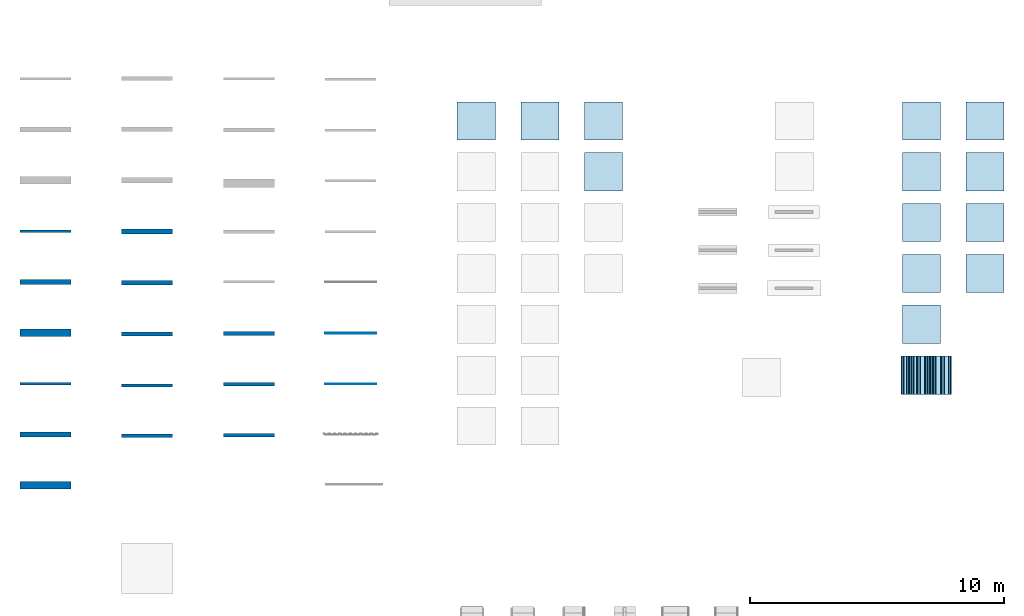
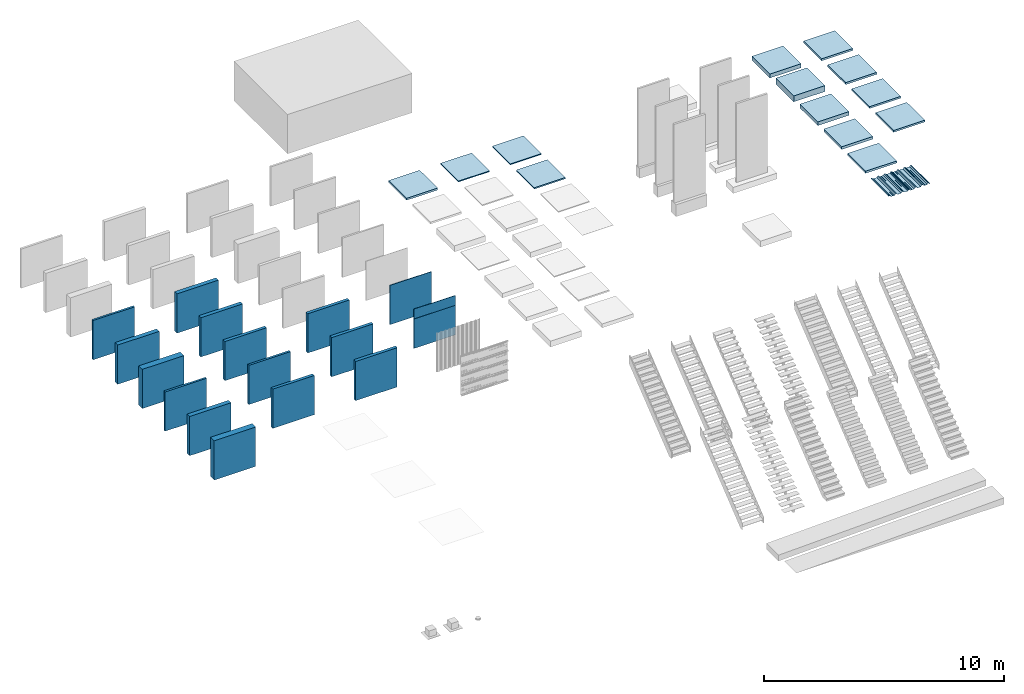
# One storey, part 4 of 14: 17 walls, 13 slabs, 2 plates, 10 elements without a shape of their own.
"""IFC2X3 building model written with IfcOpenShell, lengths in millimetres."""

from ifc_helpers import new_model, entity, si_unit, converted_unit, derived_unit, direction, frame, frame_2d, origin, origin_2d_with_axis, place, context, subcontext, project, spatial, polyline, rectangle, outline, extrude, source, transform, mapped, material, layer, layer_set, layer_usage, type_object, type_shapes, element, aggregate, save


model = new_model("IFC2X3")

# Units and contexts
model_context = context("Model", 3, precision=0.01, world=origin(), true_north=direction((6.12303176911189e-17, 1.0)))
body_context = subcontext(model_context, "Body", "Model", "MODEL_VIEW")
ifc_project = project(units=[si_unit("LENGTHUNIT", "METRE", prefix="MILLI"), si_unit("AREAUNIT", "SQUARE_METRE"), si_unit("VOLUMEUNIT", "CUBIC_METRE"), converted_unit("PLANEANGLEUNIT", "DEGREE", entity("IfcRatioMeasure", 0.0174532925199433), si_unit("PLANEANGLEUNIT", "RADIAN"), dimensions=[0, 0, 0, 0, 0, 0, 0]), si_unit("MASSUNIT", "GRAM", prefix="KILO"), si_unit("TIMEUNIT", "SECOND"), si_unit("FREQUENCYUNIT", "HERTZ"), si_unit("THERMODYNAMICTEMPERATUREUNIT", "KELVIN"), derived_unit("THERMALTRANSMITTANCEUNIT", [(si_unit("MASSUNIT", "GRAM", prefix="KILO"), 1), (si_unit("THERMODYNAMICTEMPERATUREUNIT", "KELVIN"), -1), (si_unit("TIMEUNIT", "SECOND"), -3)]), derived_unit("VOLUMETRICFLOWRATEUNIT", [(si_unit("LENGTHUNIT", "METRE"), 3), (si_unit("TIMEUNIT", "SECOND"), -1)]), si_unit("ELECTRICCURRENTUNIT", "AMPERE"), si_unit("ELECTRICVOLTAGEUNIT", "VOLT"), si_unit("POWERUNIT", "WATT")], contexts=[model_context])

# Site, building, storey
site_placement = place(None, origin())
site = spatial("IfcSite", under=ifc_project, at=site_placement, Name="Surface", CompositionType="ELEMENT")
building_placement = place(site_placement, origin())
building = spatial("IfcBuilding", under=site, at=building_placement, CompositionType="ELEMENT")
storey_placement = place(building_placement, origin())
storey = spatial("IfcBuildingStorey", under=building, at=storey_placement, Name="00_begane grond", CompositionType="ELEMENT", Elevation=0.0)

# Roof, plates
curtain_wall_type = type_object("IfcCurtainWallType", Name="Sloped Glazing:27_CW_SAB58KD_945mm", PredefinedType="NOTDEFINED")
roof_1_placement = place(storey_placement, origin())
roof_1 = element("IfcRoof", 1, at=roof_1_placement, inside=storey, type_object=curtain_wall_type, Name="Sloped Glazing:27_CW_SAB58KD_945mm", ObjectType="Sloped Glazing:27_CW_SAB58KD_945mm:1393", ShapeType="NOTDEFINED")
plate_type_1 = type_object("IfcPlateType", Name="SAB58KD_945", PredefinedType="NOTDEFINED")
shared_shape_1 = source(origin(), body_context, "Body", "SweptSolid", [
    extrude(outline(polyline([(-41.6883369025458, -6.31626557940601), (-38.0537855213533, -6.31626557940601), (-6.51645922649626, 14.7086186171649), (-5.11855484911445, 18.063589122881), (44.5780594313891, 51.1946653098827), (119.78533029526, 31.0648525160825), (162.475119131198, 59.5247117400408), (172.819626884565, 136.689043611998), (222.51559042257, 169.819685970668), (226.150141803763, 169.819685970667), (257.68746809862, 190.844570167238), (259.085372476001, 194.199540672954), (308.781608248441, 227.330364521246), (383.988986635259, 207.200623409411), (416.028687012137, 228.560423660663), (397.342743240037, 286.371121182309), (408.300957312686, 293.676597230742), (418.90416186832, 283.514998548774), (420.28798638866, 284.958961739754), (408.526464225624, 296.23063602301), (394.974288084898, 287.195851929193), (413.660231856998, 229.385154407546), (383.632257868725, 209.366505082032), (308.424879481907, 229.496246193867), (257.472122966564, 195.527741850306), (256.074218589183, 192.17277134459), (225.544590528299, 171.819685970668), (221.910039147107, 171.819685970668), (170.95755361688, 137.851362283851), (160.613045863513, 60.6870304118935), (119.428602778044, 33.2307350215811), (44.2213319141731, 53.3605478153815), (-6.73180435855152, 19.3917903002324), (-8.12970873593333, 16.0368197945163), (-38.6593367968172, -4.31626557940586), (-42.2938881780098, -4.31626557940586), (-93.2479062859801, -38.2856109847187), (-103.592414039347, -115.449942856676), (-144.776857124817, -142.906238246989), (-219.984127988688, -122.776425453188), (-270.937264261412, -156.745182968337), (-272.335168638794, -160.100153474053), (-302.864796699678, -180.453238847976), (-306.49934808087, -180.453238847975), (-357.44939838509, -214.419939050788), (-368.151786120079, -294.22655842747), (-407.873068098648, -320.707413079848), (-423.86478432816, -316.569685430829), (-432.461053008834, -311.156883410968), (-433.526726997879, -312.849319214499), (-424.667084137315, -318.427959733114), (-407.507999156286, -322.867734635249), (-366.289758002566, -295.388907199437), (-355.587370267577, -215.582287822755), (-305.893796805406, -182.453238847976), (-302.259245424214, -182.453238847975), (-270.721919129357, -161.428354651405), (-269.324014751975, -158.073384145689), (-219.627400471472, -124.942307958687), (-144.420129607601, -145.072120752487), (-101.730340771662, -116.612261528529), (-91.3858330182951, -39.4479296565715), (-41.6883369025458, -6.31626557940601)])), frame((534.253619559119, 42.597426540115, 0.0), z_axis=(0.0, 0.0, 1.0), x_axis=(0.832050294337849, -0.55470019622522, 0.0)), (0.0, 0.0, 1.0), 1500.0),
])
type_shapes(plate_type_1, [shared_shape_1])
plate_1_placement = place(roof_1_placement, frame((34647.8084880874, -13415.0, 64.0), z_axis=(0.0, 1.0, 0.0), x_axis=(1.0, 0.0, 0.0)))
plate_1 = element("IfcPlate", 2, at=plate_1_placement, type_object=plate_type_1, Name="27_CWP_SAB58KD_945:SAB58KD_945", ObjectType="SAB58KD_945", context=body_context, shape_type="MappedRepresentation", body=[
    mapped(shared_shape_1, transform((0.0, 0.0, 0.0), scale=1.0)),
])
plate_type_2 = type_object("IfcPlateType", Name="SAB58KD_945", PredefinedType="NOTDEFINED")
shared_shape_2 = source(origin(), body_context, "Body", "SweptSolid", [
    extrude(outline(polyline([(-41.688336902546, -6.31626557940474), (-38.0537855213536, -6.31626557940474), (-6.51645922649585, 14.7086186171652), (-5.11855484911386, 18.0635891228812), (44.5780594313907, 51.1946653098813), (119.785330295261, 31.0648525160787), (162.4751191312, 59.5247117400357), (172.819626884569, 136.689043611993), (222.515590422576, 169.819685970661), (226.150141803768, 169.81968597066), (257.687468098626, 190.84457016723), (259.085372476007, 194.199540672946), (308.781608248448, 227.330364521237), (383.988986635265, 207.200623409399), (416.028687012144, 228.56042366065), (397.342743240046, 286.371121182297), (408.300957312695, 293.676597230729), (418.904161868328, 283.514998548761), (420.287986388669, 284.958961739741), (408.526464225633, 296.230636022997), (394.974288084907, 287.19585192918), (413.660231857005, 229.385154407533), (383.632257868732, 209.36650508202), (308.424879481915, 229.496246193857), (257.47212296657, 195.527741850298), (256.074218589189, 192.172771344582), (225.544590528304, 171.81968597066), (221.910039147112, 171.819685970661), (170.957553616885, 137.851362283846), (160.613045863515, 60.6870304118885), (119.428602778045, 33.2307350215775), (44.2213319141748, 53.3605478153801), (-6.73180435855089, 19.3917903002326), (-8.1297087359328, 16.0368197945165), (-38.6593367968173, -4.31626557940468), (-42.2938881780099, -4.31626557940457), (-93.2479062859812, -38.2856109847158), (-103.592414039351, -115.449942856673), (-144.776857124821, -142.906238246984), (-219.984127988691, -122.776425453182), (-270.937264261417, -156.745182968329), (-272.335168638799, -160.100153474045), (-302.864796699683, -180.453238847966), (-306.499348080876, -180.453238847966), (-357.449398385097, -214.419939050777), (-368.151786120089, -294.226558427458), (-407.873068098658, -320.707413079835), (-423.86478432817, -316.569685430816), (-432.461053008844, -311.156883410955), (-433.526726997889, -312.849319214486), (-424.667084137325, -318.427959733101), (-407.507999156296, -322.867734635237), (-366.289758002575, -295.388907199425), (-355.587370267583, -215.582287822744), (-305.893796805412, -182.453238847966), (-302.259245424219, -182.453238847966), (-270.721919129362, -161.428354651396), (-269.32401475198, -158.07338414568), (-219.627400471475, -124.94230795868), (-144.420129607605, -145.072120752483), (-101.730340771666, -116.612261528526), (-91.3858330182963, -39.4479296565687), (-41.688336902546, -6.31626557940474)])), frame((534.253619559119, 42.597426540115, 0.0), z_axis=(0.0, 0.0, 1.0), x_axis=(0.832050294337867, -0.554700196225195, 0.0)), (0.0, 0.0, 1.0), 1500.0),
])
type_shapes(plate_type_2, [shared_shape_2])
plate_2_placement = place(roof_1_placement, frame((35592.8084880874, -13415.0, 64.0), z_axis=(0.0, 1.0, 0.0), x_axis=(1.0, 0.0, 0.0)))
plate_2 = element("IfcPlate", 3, at=plate_2_placement, type_object=plate_type_2, Name="27_CWP_SAB58KD_945:SAB58KD_945", ObjectType="SAB58KD_945", context=body_context, shape_type="MappedRepresentation", body=[
    mapped(shared_shape_2, transform((0.0, 0.0, 0.0), scale=1.0)),
])
aggregate(roof_1, [plate_1, plate_2])

# Slabs
ifc_material_1 = material(Name="Default")
ifc_layer_1 = layer(ifc_material_1, 100.0)
ifc_layer_set_1 = layer_set([ifc_layer_1], Name="Floor:13_FL_generiek_100")
ifc_layer_usage_1 = layer_usage(ifc_layer_set_1, "AXIS3", "POSITIVE", 0.0)
slab_1_placement = place(storey_placement, origin())
element("IfcSlab", 4, at=slab_1_placement, inside=storey, material=ifc_layer_usage_1, Name="Floor:13_FL_generiek_100", ObjectType="Floor:13_FL_generiek_100", PredefinedType="FLOOR", context=body_context, shape_type="SweptSolid", body=[
    extrude(rectangle(XDim=1500.0, YDim=1500.0, at=frame_2d((-1.13686837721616e-13, 0.0), x_axis=(1.0, 0.0))), frame((17943.3473849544, -2665.0, 0.0), z_axis=(0.0, 0.0, -1.0), x_axis=(0.0, 1.0, 0.0)), (0.0, 0.0, 1.0), 100.0),
])
ifc_material_2 = material(Name="28_beton_prefab_C45_55")
ifc_layer_2 = layer(ifc_material_2, 50.0)
ifc_layer_set_2 = layer_set([ifc_layer_2], Name="Floor:23_FL_breedplaat_50")
ifc_layer_usage_2 = layer_usage(ifc_layer_set_2, "AXIS3", "POSITIVE", 0.0)
slab_2_placement = place(storey_placement, origin())
element("IfcSlab", 5, at=slab_2_placement, inside=storey, material=ifc_layer_usage_2, Name="Floor:23_FL_breedplaat_50", ObjectType="Floor:23_FL_breedplaat_50", PredefinedType="FLOOR", context=body_context, shape_type="SweptSolid", body=[
    extrude(rectangle(XDim=1500.0, YDim=1500.00000000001, at=frame_2d((-1.13686837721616e-13, 0.0), x_axis=(1.0, 0.0))), frame((20443.3473849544, -2665.0, 0.0), z_axis=(0.0, 0.0, -1.0), x_axis=(0.0, 1.0, 0.0)), (0.0, 0.0, 1.0), 50.0),
])
ifc_material_3 = material(Name="43_dekvloer_zandcement")
ifc_layer_3 = layer(ifc_material_3, 50.0)
ifc_layer_set_3 = layer_set([ifc_layer_3], Name="Floor:43_FL_cementdekvloer_50")
ifc_layer_usage_3 = layer_usage(ifc_layer_set_3, "AXIS3", "POSITIVE", 0.0)
slab_3_placement = place(storey_placement, origin())
element("IfcSlab", 6, at=slab_3_placement, inside=storey, material=ifc_layer_usage_3, Name="Floor:43_FL_cementdekvloer_50", ObjectType="Floor:43_FL_cementdekvloer_50", PredefinedType="FLOOR", context=body_context, shape_type="SweptSolid", body=[
    extrude(rectangle(XDim=1500.0, YDim=1500.00000000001, at=frame_2d((1.70530256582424e-13, 0.0), x_axis=(1.0, 0.0))), frame((22943.3473849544, -2665.0, 0.0), z_axis=(0.0, 0.0, -1.0), x_axis=(0.0, 1.0, 0.0)), (0.0, 0.0, 1.0), 50.0),
])
ifc_layer_4 = layer(ifc_material_3, 70.0)
ifc_layer_set_4 = layer_set([ifc_layer_4], Name="Floor:43_FL_cementdekvloer_70")
ifc_layer_usage_4 = layer_usage(ifc_layer_set_4, "AXIS3", "POSITIVE", 0.0)
slab_4_placement = place(storey_placement, origin())
element("IfcSlab", 7, at=slab_4_placement, inside=storey, material=ifc_layer_usage_4, Name="Floor:43_FL_cementdekvloer_70", ObjectType="Floor:43_FL_cementdekvloer_70", PredefinedType="FLOOR", context=body_context, shape_type="SweptSolid", body=[
    extrude(rectangle(XDim=1500.0, YDim=1500.00000000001, at=origin_2d_with_axis()), frame((22943.3473849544, -4665.0, 0.0), z_axis=(0.0, 0.0, -1.0), x_axis=(0.0, 1.0, 0.0)), (0.0, 0.0, 1.0), 70.0),
])

# Roof, slab
roof_2_placement = place(storey_placement, frame((34693.3473849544, -3415.0, 0.0)))
roof_2 = element("IfcRoof", 8, at=roof_2_placement, inside=storey, Name="Basic Roof:27_RO_generiek_200", ObjectType="Basic Roof:27_RO_generiek_200", ShapeType="NOTDEFINED")
ifc_layer_5 = layer(ifc_material_1, 200.0)
ifc_layer_set_5 = layer_set([ifc_layer_5], Name="Basic Roof:27_RO_generiek_200")
slab_5_placement = place(roof_2_placement, origin())
slab_5 = element("IfcSlab", 9, at=slab_5_placement, material=ifc_layer_set_5, Name="Basic Roof:27_RO_generiek_200", ObjectType="Basic Roof:27_RO_generiek_200", PredefinedType="ROOF", context=body_context, shape_type="SweptSolid", body=[
    extrude(rectangle(XDim=1500.0, YDim=1500.0, at=frame_2d((-2.1600499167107e-12, 0.0), x_axis=(1.0, 0.0))), frame((750.0, 750.0, 0.0)), (0.0, 0.0, 1.0), 200.0),
])
aggregate(roof_2, [slab_5])

roof_3_placement = place(storey_placement, frame((34693.3473849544, -5415.0, 0.0)))
roof_3 = element("IfcRoof", 10, at=roof_3_placement, inside=storey, Name="Basic Roof:27_RO_generiek_300", ObjectType="Basic Roof:27_RO_generiek_300", ShapeType="NOTDEFINED")
ifc_layer_6 = layer(ifc_material_1, 300.0)
ifc_layer_set_6 = layer_set([ifc_layer_6], Name="Basic Roof:27_RO_generiek_300")
slab_6_placement = place(roof_3_placement, origin())
slab_6 = element("IfcSlab", 11, at=slab_6_placement, material=ifc_layer_set_6, Name="Basic Roof:27_RO_generiek_300", ObjectType="Basic Roof:27_RO_generiek_300", PredefinedType="ROOF", context=body_context, shape_type="SweptSolid", body=[
    extrude(rectangle(XDim=1500.0, YDim=1500.0, at=frame_2d((2.1600499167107e-12, 0.0), x_axis=(1.0, 0.0))), frame((750.0, 750.0, 0.0)), (0.0, 0.0, 1.0), 300.0),
])
aggregate(roof_3, [slab_6])

roof_4_placement = place(storey_placement, frame((37193.3473849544, -3415.0, 0.0)))
roof_4 = element("IfcRoof", 12, at=roof_4_placement, inside=storey, Name="Basic Roof:47_RO_isolatie_PIR_bitumen_82_80-2", ObjectType="Basic Roof:47_RO_isolatie_PIR_bitumen_82_80-2", ShapeType="NOTDEFINED")
ifc_material_4 = material(Name="47_bitumen")
ifc_layer_7 = layer(ifc_material_4, 2.0)
ifc_material_5 = material(Name="20_isolatie_PIR")
ifc_layer_8 = layer(ifc_material_5, 100.0)
ifc_layer_set_7 = layer_set([ifc_layer_7, ifc_layer_8], Name="Basic Roof:47_RO_isolatie_PIR_bitumen_82_80-2")
slab_7_placement = place(roof_4_placement, origin())
slab_7 = element("IfcSlab", 13, at=slab_7_placement, material=ifc_layer_set_7, Name="Basic Roof:47_RO_isolatie_PIR_bitumen_82_80-2", ObjectType="Basic Roof:47_RO_isolatie_PIR_bitumen_82_80-2", PredefinedType="ROOF", context=body_context, shape_type="SweptSolid", body=[
    extrude(rectangle(XDim=1500.0, YDim=1500.0, at=frame_2d((2.1600499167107e-12, 0.0), x_axis=(1.0, 0.0))), frame((750.0, 750.0, 0.0)), (0.0, 0.0, 1.0), 102.0),
])
aggregate(roof_4, [slab_7])

roof_5_placement = place(storey_placement, frame((37193.3473849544, -5415.0, 0.0)))
roof_5 = element("IfcRoof", 14, at=roof_5_placement, inside=storey, Name="Basic Roof:47_RO_isolatie_EPS_bitumen_102_100-2", ObjectType="Basic Roof:47_RO_isolatie_EPS_bitumen_102_100-2", ShapeType="NOTDEFINED")
ifc_layer_9 = layer(ifc_material_4, 2.0)
ifc_material_6 = material(Name="20_isolatie_EPS")
ifc_layer_10 = layer(ifc_material_6, 100.0)
ifc_layer_set_8 = layer_set([ifc_layer_9, ifc_layer_10], Name="Basic Roof:47_RO_isolatie_EPS_bitumen_102_100-2")
slab_8_placement = place(roof_5_placement, origin())
slab_8 = element("IfcSlab", 15, at=slab_8_placement, material=ifc_layer_set_8, Name="Basic Roof:47_RO_isolatie_EPS_bitumen_102_100-2", ObjectType="Basic Roof:47_RO_isolatie_EPS_bitumen_102_100-2", PredefinedType="ROOF", context=body_context, shape_type="SweptSolid", body=[
    extrude(rectangle(XDim=1500.0, YDim=1500.0, at=frame_2d((-2.1600499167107e-12, 0.0), x_axis=(1.0, 0.0))), frame((750.0, 750.0, 0.0)), (0.0, 0.0, 1.0), 102.0),
])
aggregate(roof_5, [slab_8])

roof_6_placement = place(storey_placement, frame((34693.3473849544, -7415.0, 0.0)))
roof_6 = element("IfcRoof", 16, at=roof_6_placement, inside=storey, Name="Basic Roof:27_RO_hout_underlayment_189_171-18", ObjectType="Basic Roof:27_RO_hout_underlayment_189_171-18", ShapeType="NOTDEFINED")
ifc_material_7 = material(Name="27_beplating_underlayment")
ifc_layer_11 = layer(ifc_material_7, 18.0)
ifc_material_8 = material(Name="27_houten_balklaag_geventileerd")
ifc_layer_12 = layer(ifc_material_8, 171.0)
ifc_layer_set_9 = layer_set([ifc_layer_11, ifc_layer_12], Name="Basic Roof:27_RO_hout_underlayment_189_171-18")
slab_9_placement = place(roof_6_placement, origin())
slab_9 = element("IfcSlab", 17, at=slab_9_placement, material=ifc_layer_set_9, Name="Basic Roof:27_RO_hout_underlayment_189_171-18", ObjectType="Basic Roof:27_RO_hout_underlayment_189_171-18", PredefinedType="ROOF", context=body_context, shape_type="SweptSolid", body=[
    extrude(rectangle(XDim=1500.0, YDim=1500.0, at=frame_2d((-2.1600499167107e-12, 0.0), x_axis=(1.0, 0.0))), frame((750.0, 750.0, 0.0)), (0.0, 0.0, 1.0), 189.0),
])
aggregate(roof_6, [slab_9])

roof_7_placement = place(storey_placement, frame((34693.3473849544, -9415.0, 0.0)))
roof_7 = element("IfcRoof", 18, at=roof_7_placement, inside=storey, Name="Basic Roof:27_RO_dakplaat_enkelschalig_PIR_135_33-90-12", ObjectType="Basic Roof:27_RO_dakplaat_enkelschalig_PIR_135_33-90-12", ShapeType="NOTDEFINED")
ifc_material_9 = material(Name="00_lucht_spouw_dak_geventileerd")
ifc_layer_13 = layer(ifc_material_9, 33.0)
ifc_layer_14 = layer(ifc_material_5, 90.0)
ifc_material_10 = material(Name="20_beplating_MDF")
ifc_layer_15 = layer(ifc_material_10, 12.0)
ifc_layer_set_10 = layer_set([ifc_layer_13, ifc_layer_14, ifc_layer_15], Name="Basic Roof:27_RO_dakplaat_enkelschalig_PIR_135_33-90-12")
slab_10_placement = place(roof_7_placement, origin())
slab_10 = element("IfcSlab", 19, at=slab_10_placement, material=ifc_layer_set_10, Name="Basic Roof:27_RO_dakplaat_enkelschalig_PIR_135_33-90-12", ObjectType="Basic Roof:27_RO_dakplaat_enkelschalig_PIR_135_33-90-12", PredefinedType="ROOF", context=body_context, shape_type="SweptSolid", body=[
    extrude(rectangle(XDim=1500.0, YDim=1500.0, at=frame_2d((2.1600499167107e-12, 0.0), x_axis=(1.0, 0.0))), frame((750.0, 750.0, 0.0)), (0.0, 0.0, 1.0), 135.0),
])
aggregate(roof_7, [slab_10])

roof_8_placement = place(storey_placement, frame((37193.3473849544, -7415.0, 0.0)))
roof_8 = element("IfcRoof", 20, at=roof_8_placement, inside=storey, Name="Basic Roof:47_RO_dakpan_grijs_300x300", ObjectType="Basic Roof:47_RO_dakpan_grijs_300x300", ShapeType="NOTDEFINED")
ifc_material_11 = material(Name="47_dakpan_grijs")
ifc_layer_16 = layer(ifc_material_11, 70.0)
ifc_material_12 = material(Name="47_panlat_geventileerd")
ifc_layer_17 = layer(ifc_material_12, 22.0)
ifc_layer_set_11 = layer_set([ifc_layer_16, ifc_layer_17], Name="Basic Roof:47_RO_dakpan_grijs_300x300")
slab_11_placement = place(roof_8_placement, origin())
slab_11 = element("IfcSlab", 21, at=slab_11_placement, material=ifc_layer_set_11, Name="Basic Roof:47_RO_dakpan_grijs_300x300", ObjectType="Basic Roof:47_RO_dakpan_grijs_300x300", PredefinedType="ROOF", context=body_context, shape_type="SweptSolid", body=[
    extrude(rectangle(XDim=1500.0, YDim=1500.0, at=frame_2d((2.1600499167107e-12, 5.11590769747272e-13), x_axis=(1.0, 0.0))), frame((750.0, 750.0, 0.0)), (0.0, 0.0, 1.0), 92.0),
])
aggregate(roof_8, [slab_11])

roof_9_placement = place(storey_placement, frame((37193.3473849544, -9415.0, 0.0)))
roof_9 = element("IfcRoof", 22, at=roof_9_placement, inside=storey, Name="Basic Roof:47_RO_dakpan_rood_300x300", ObjectType="Basic Roof:47_RO_dakpan_rood_300x300", ShapeType="NOTDEFINED")
ifc_material_13 = material(Name="47_dakpan_rood")
ifc_layer_18 = layer(ifc_material_13, 70.0)
ifc_layer_19 = layer(ifc_material_12, 22.0)
ifc_layer_set_12 = layer_set([ifc_layer_18, ifc_layer_19], Name="Basic Roof:47_RO_dakpan_rood_300x300")
slab_12_placement = place(roof_9_placement, origin())
slab_12 = element("IfcSlab", 23, at=slab_12_placement, material=ifc_layer_set_12, Name="Basic Roof:47_RO_dakpan_rood_300x300", ObjectType="Basic Roof:47_RO_dakpan_rood_300x300", PredefinedType="ROOF", context=body_context, shape_type="SweptSolid", body=[
    extrude(rectangle(XDim=1500.0, YDim=1500.0, at=frame_2d((-2.1600499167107e-12, 5.11590769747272e-13), x_axis=(1.0, 0.0))), frame((750.0, 750.0, 0.0)), (0.0, 0.0, 1.0), 92.0),
])
aggregate(roof_9, [slab_12])

roof_10_placement = place(storey_placement, frame((34693.3473849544, -11415.0, 0.0)))
roof_10 = element("IfcRoof", 24, at=roof_10_placement, inside=storey, Name="Basic Roof:27_RO_dakplaat_sandwich_PIR_106_20-3-80-3", ObjectType="Basic Roof:27_RO_dakplaat_sandwich_PIR_106_20-3-80-3", ShapeType="NOTDEFINED")
ifc_material_14 = material(Name="27_tengels_geventileerd")
ifc_layer_20 = layer(ifc_material_14, 20.0)
ifc_layer_21 = layer(ifc_material_10, 3.0)
ifc_layer_22 = layer(ifc_material_5, 80.0)
ifc_layer_23 = layer(ifc_material_10, 3.0)
ifc_layer_set_13 = layer_set([ifc_layer_20, ifc_layer_21, ifc_layer_22, ifc_layer_23], Name="Basic Roof:27_RO_dakplaat_sandwich_PIR_106_20-3-80-3")
slab_13_placement = place(roof_10_placement, origin())
slab_13 = element("IfcSlab", 25, at=slab_13_placement, material=ifc_layer_set_13, Name="Basic Roof:27_RO_dakplaat_sandwich_PIR_106_20-3-80-3", ObjectType="Basic Roof:27_RO_dakplaat_sandwich_PIR_106_20-3-80-3", PredefinedType="ROOF", context=body_context, shape_type="SweptSolid", body=[
    extrude(rectangle(XDim=1500.0, YDim=1500.0, at=frame_2d((-2.1600499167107e-12, 0.0), x_axis=(1.0, 0.0))), frame((750.0, 750.0, 0.0)), (0.0, 0.0, 1.0), 106.0),
])
aggregate(roof_10, [slab_13])

# Walls
ifc_material_15 = material(Name="20_baksteen_wf_210x100x50_10mm_voeg_halfsteens_rood_genuanceerd")
ifc_layer_24 = layer(ifc_material_15, 100.0)
ifc_layer_set_14 = layer_set([ifc_layer_24], Name="Basic Wall:21_WA_mw_100")
ifc_layer_usage_5 = layer_usage(ifc_layer_set_14, "AXIS2", "NEGATIVE", 50.0)
wall_type_1 = type_object("IfcWallType", Name="Basic Wall:21_WA_mw_100", PredefinedType="STANDARD", material=ifc_layer_set_14)
wall_1_placement = place(storey_placement, frame((0.0, -13000.0, 0.0)))
element("IfcWallStandardCase", 26, at=wall_1_placement, inside=storey, type_object=wall_type_1, material=ifc_layer_usage_5, Name="Basic Wall:21_WA_mw_100", ObjectType="Basic Wall:21_WA_mw_100", context=body_context, shape_type="SweptSolid", body=[
    extrude(rectangle(XDim=2000.0, YDim=99.9999999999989, at=frame_2d((1000.0, 5.32907051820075e-13), x_axis=(-1.0, 0.0))), origin(), (0.0, 0.0, 1.0), 2000.0),
])
ifc_layer_25 = layer(ifc_material_15, 210.0)
ifc_layer_set_15 = layer_set([ifc_layer_25], Name="Basic Wall:21_WA_mw_210")
ifc_layer_usage_6 = layer_usage(ifc_layer_set_15, "AXIS2", "NEGATIVE", 105.0)
wall_type_2 = type_object("IfcWallType", Name="Basic Wall:21_WA_mw_210", PredefinedType="STANDARD", material=ifc_layer_set_15)
wall_2_placement = place(storey_placement, frame((0.0, -15000.0, 0.0)))
element("IfcWallStandardCase", 27, at=wall_2_placement, inside=storey, type_object=wall_type_2, material=ifc_layer_usage_6, Name="Basic Wall:21_WA_mw_210", ObjectType="Basic Wall:21_WA_mw_210", context=body_context, shape_type="SweptSolid", body=[
    extrude(rectangle(XDim=2000.0, YDim=210.0, at=frame_2d((1000.0, 5.32907051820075e-13), x_axis=(-1.0, 0.0))), origin(), (0.0, 0.0, 1.0), 2000.0),
])
ifc_layer_26 = layer(ifc_material_15, 100.0)
ifc_material_16 = material(Name="00_lucht_spouw_muur_geventileerd")
ifc_layer_27 = layer(ifc_material_16, 100.0)
ifc_layer_28 = layer(ifc_material_15, 100.0)
ifc_layer_set_16 = layer_set([ifc_layer_26, ifc_layer_27, ifc_layer_28], Name="Basic Wall:21_WA_mw_spouw_mw_300_100-100-100")
ifc_layer_usage_7 = layer_usage(ifc_layer_set_16, "AXIS2", "NEGATIVE", 150.0)
wall_type_3 = type_object("IfcWallType", Name="Basic Wall:21_WA_mw_spouw_mw_300_100-100-100", PredefinedType="STANDARD", material=ifc_layer_set_16)
wall_3_placement = place(storey_placement, frame((0.0, -17000.0, 0.0)))
element("IfcWallStandardCase", 28, at=wall_3_placement, inside=storey, type_object=wall_type_3, material=ifc_layer_usage_7, Name="Basic Wall:21_WA_mw_spouw_mw_300_100-100-100", ObjectType="Basic Wall:21_WA_mw_spouw_mw_300_100-100-100", context=body_context, shape_type="SweptSolid", body=[
    extrude(rectangle(XDim=2000.0, YDim=300.000000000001, at=frame_2d((1000.0, 5.40012479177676e-13), x_axis=(-1.0, 0.0))), origin(), (0.0, 0.0, 1.0), 2000.0),
])
ifc_material_17 = material(Name="00_baksteen_bestaand")
ifc_layer_29 = layer(ifc_material_17, 100.0)
ifc_layer_set_17 = layer_set([ifc_layer_29], Name="Basic Wall:21_WA_mw-bestaand_100")
ifc_layer_usage_8 = layer_usage(ifc_layer_set_17, "AXIS2", "NEGATIVE", 50.0)
wall_type_4 = type_object("IfcWallType", Name="Basic Wall:21_WA_mw-bestaand_100", PredefinedType="STANDARD", material=ifc_layer_set_17)
wall_4_placement = place(storey_placement, frame((0.0, -7000.0, 0.0)))
element("IfcWallStandardCase", 29, at=wall_4_placement, inside=storey, type_object=wall_type_4, material=ifc_layer_usage_8, Name="Basic Wall:21_WA_mw-bestaand_100", ObjectType="Basic Wall:21_WA_mw-bestaand_100", context=body_context, shape_type="SweptSolid", body=[
    extrude(rectangle(XDim=2000.0, YDim=99.9999999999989, at=frame_2d((1000.0, -7.105427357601e-15), x_axis=(-1.0, 0.0))), origin(), (0.0, 0.0, 1.0), 2000.0),
])
ifc_layer_30 = layer(ifc_material_17, 210.0)
ifc_layer_set_18 = layer_set([ifc_layer_30], Name="Basic Wall:21_WA_mw_bestaand_210")
ifc_layer_usage_9 = layer_usage(ifc_layer_set_18, "AXIS2", "NEGATIVE", 105.0)
wall_type_5 = type_object("IfcWallType", Name="Basic Wall:21_WA_mw_bestaand_210", PredefinedType="STANDARD", material=ifc_layer_set_18)
wall_5_placement = place(storey_placement, frame((0.0, -9000.0, 0.0)))
element("IfcWallStandardCase", 30, at=wall_5_placement, inside=storey, type_object=wall_type_5, material=ifc_layer_usage_9, Name="Basic Wall:21_WA_mw_bestaand_210", ObjectType="Basic Wall:21_WA_mw_bestaand_210", context=body_context, shape_type="SweptSolid", body=[
    extrude(rectangle(XDim=2000.0, YDim=210.0, at=frame_2d((1000.0, -1.4210854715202e-14), x_axis=(-1.0, 0.0))), origin(), (0.0, 0.0, 1.0), 2000.0),
])
ifc_layer_31 = layer(ifc_material_17, 100.0)
ifc_layer_32 = layer(ifc_material_16, 100.0)
ifc_layer_33 = layer(ifc_material_17, 100.0)
ifc_layer_set_19 = layer_set([ifc_layer_31, ifc_layer_32, ifc_layer_33], Name="Basic Wall:21_WA_mw-bestaand_spouw_mw-bestaand_300_100-100-100")
ifc_layer_usage_10 = layer_usage(ifc_layer_set_19, "AXIS2", "NEGATIVE", 150.0)
wall_type_6 = type_object("IfcWallType", Name="Basic Wall:21_WA_mw-bestaand_spouw_mw-bestaand_300_100-100-100", PredefinedType="STANDARD", material=ifc_layer_set_19)
wall_6_placement = place(storey_placement, frame((0.0, -11000.0, 0.0)))
element("IfcWallStandardCase", 31, at=wall_6_placement, inside=storey, type_object=wall_type_6, material=ifc_layer_usage_10, Name="Basic Wall:21_WA_mw-bestaand_spouw_mw-bestaand_300_100-100-100", ObjectType="Basic Wall:21_WA_mw-bestaand_spouw_mw-bestaand_300_100-100-100", context=body_context, shape_type="SweptSolid", body=[
    extrude(rectangle(XDim=2000.0, YDim=300.000000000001, at=frame_2d((1000.0, 5.40012479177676e-13), x_axis=(-1.0, 0.0))), origin(), (0.0, 0.0, 1.0), 2000.0),
])
ifc_layer_34 = layer(ifc_material_15, 100.0)
ifc_layer_35 = layer(ifc_material_16, 30.0)
ifc_material_18 = material(Name="20_isolatie_steenwol")
ifc_layer_36 = layer(ifc_material_18, 70.0)
ifc_layer_set_20 = layer_set([ifc_layer_34, ifc_layer_35, ifc_layer_36], Name="Basic Wall:21_WA_mw_spouw_iso-sw_200_100-30-70")
ifc_layer_usage_11 = layer_usage(ifc_layer_set_20, "AXIS2", "NEGATIVE", 100.0)
wall_type_7 = type_object("IfcWallType", Name="Basic Wall:21_WA_mw_spouw_iso-sw_200_100-30-70", PredefinedType="STANDARD", material=ifc_layer_set_20)
wall_7_placement = place(storey_placement, frame((4000.0, -7020.0, 0.0)))
element("IfcWallStandardCase", 32, at=wall_7_placement, inside=storey, type_object=wall_type_7, material=ifc_layer_usage_11, Name="Basic Wall:21_WA_mw_spouw_iso-sw_200_100-30-70", ObjectType="Basic Wall:21_WA_mw_spouw_iso-sw_200_100-30-70", context=body_context, shape_type="SweptSolid", body=[
    extrude(rectangle(XDim=2000.0, YDim=200.0, at=frame_2d((1000.0, -7.105427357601e-15), x_axis=(-1.0, 0.0))), origin(), (0.0, 0.0, 1.0), 2000.0),
])
ifc_material_19 = material(Name="41_hout_hardhout_geveldelen_donkerblauw_horizontaal")
ifc_layer_37 = layer(ifc_material_19, 20.0)
ifc_material_20 = material(Name="40_regelwerk_geventileerd")
ifc_layer_38 = layer(ifc_material_20, 30.0)
ifc_layer_39 = layer(ifc_material_20, 10.0)
ifc_layer_40 = layer(ifc_material_18, 120.0)
ifc_layer_set_21 = layer_set([ifc_layer_37, ifc_layer_38, ifc_layer_39, ifc_layer_40], Name="Basic Wall:21_WA_hout-wrc-hor_rachel_tengel_iso-sw_180_20-30-10-120")
ifc_layer_usage_12 = layer_usage(ifc_layer_set_21, "AXIS2", "NEGATIVE", 90.0)
wall_type_8 = type_object("IfcWallType", Name="Basic Wall:21_WA_hout-wrc-hor_rachel_tengel_iso-sw_180_20-30-10-120", PredefinedType="STANDARD", material=ifc_layer_set_21)
wall_8_placement = place(storey_placement, frame((4000.0, -9030.0, 0.0)))
element("IfcWallStandardCase", 33, at=wall_8_placement, inside=storey, type_object=wall_type_8, material=ifc_layer_usage_12, Name="Basic Wall:21_WA_hout-wrc-hor_rachel_tengel_iso-sw_180_20-30-10-120", ObjectType="Basic Wall:21_WA_hout-wrc-hor_rachel_tengel_iso-sw_180_20-30-10-120", context=body_context, shape_type="SweptSolid", body=[
    extrude(rectangle(XDim=2000.0, YDim=180.0, at=frame_2d((1000.0, -7.105427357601e-15), x_axis=(-1.0, 0.0))), origin(), (0.0, 0.0, 1.0), 2000.0),
])
ifc_material_21 = material(Name="40_stucwerk_exterieur_grof_wit")
ifc_layer_41 = layer(ifc_material_21, 30.0)
ifc_layer_42 = layer(ifc_material_6, 120.0)
ifc_layer_set_22 = layer_set([ifc_layer_41, ifc_layer_42], Name="Basic Wall:21_WA_stucwerk_iso-eps_150_30-120")
ifc_layer_usage_13 = layer_usage(ifc_layer_set_22, "AXIS2", "NEGATIVE", 75.0)
wall_type_9 = type_object("IfcWallType", Name="Basic Wall:21_WA_stucwerk_iso-eps_150_30-120", PredefinedType="STANDARD", material=ifc_layer_set_22)
wall_9_placement = place(storey_placement, frame((4000.0, -11045.0, 0.0)))
element("IfcWallStandardCase", 34, at=wall_9_placement, inside=storey, type_object=wall_type_9, material=ifc_layer_usage_13, Name="Basic Wall:21_WA_stucwerk_iso-eps_150_30-120", ObjectType="Basic Wall:21_WA_stucwerk_iso-eps_150_30-120", context=body_context, shape_type="SweptSolid", body=[
    extrude(rectangle(XDim=2000.0, YDim=150.000000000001, at=frame_2d((1000.0, 5.32907051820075e-13), x_axis=(-1.0, 0.0))), origin(), (0.0, 0.0, 1.0), 2000.0),
])
ifc_material_22 = material(Name="41_staal_geanodizeerd_wit")
ifc_layer_43 = layer(ifc_material_22, 1.6)
ifc_layer_44 = layer(ifc_material_5, 96.8)
ifc_layer_45 = layer(ifc_material_22, 1.6)
ifc_layer_set_23 = layer_set([ifc_layer_43, ifc_layer_44, ifc_layer_45], Name="Basic Wall:21_WA_sandwichpaneel_100x1000")
ifc_layer_usage_14 = layer_usage(ifc_layer_set_23, "AXIS2", "NEGATIVE", 50.0)
wall_type_10 = type_object("IfcWallType", Name="Basic Wall:21_WA_sandwichpaneel_100x1000", PredefinedType="STANDARD", material=ifc_layer_set_23)
wall_10_placement = place(storey_placement, frame((4000.0, -13070.0, 0.0)))
element("IfcWallStandardCase", 35, at=wall_10_placement, inside=storey, type_object=wall_type_10, material=ifc_layer_usage_14, Name="Basic Wall:21_WA_sandwichpaneel_100x1000", ObjectType="Basic Wall:21_WA_sandwichpaneel_100x1000", context=body_context, shape_type="SweptSolid", body=[
    extrude(rectangle(XDim=2000.0, YDim=99.9999999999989, at=frame_2d((1000.0, 5.32907051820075e-13), x_axis=(-1.0, 0.0))), origin(), (0.0, 0.0, 1.0), 2000.0),
])
ifc_layer_46 = layer(ifc_material_2, 150.0)
ifc_layer_set_24 = layer_set([ifc_layer_46], Name="Basic Wall:28_WA_prefabb_C45_150")
ifc_layer_usage_15 = layer_usage(ifc_layer_set_24, "AXIS2", "NEGATIVE", 75.0)
wall_type_11 = type_object("IfcWallType", Name="Basic Wall:28_WA_prefabb_C45_150", PredefinedType="STANDARD", material=ifc_layer_set_24)
wall_11_placement = place(storey_placement, frame((8000.0, -13025.0, 0.0)))
element("IfcWallStandardCase", 36, at=wall_11_placement, inside=storey, type_object=wall_type_11, material=ifc_layer_usage_15, Name="Basic Wall:28_WA_prefabb_C45_150", ObjectType="Basic Wall:28_WA_prefabb_C45_150", context=body_context, shape_type="SweptSolid", body=[
    extrude(rectangle(XDim=2000.0, YDim=150.000000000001, at=frame_2d((1000.0, 5.32907051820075e-13), x_axis=(-1.0, 0.0))), origin(), (0.0, 0.0, 1.0), 2000.0),
])
ifc_material_23 = material(Name="40_stucwerk_interieur_fijn_wit")
ifc_layer_47 = layer(ifc_material_23, 20.0)
ifc_layer_set_25 = layer_set([ifc_layer_47], Name="Basic Wall:42_WA_stucwerk_20")
ifc_layer_usage_16 = layer_usage(ifc_layer_set_25, "AXIS2", "NEGATIVE", 10.0)
wall_type_12 = type_object("IfcWallType", Name="Basic Wall:42_WA_stucwerk_20", PredefinedType="STANDARD", material=ifc_layer_set_25)
wall_12_placement = place(storey_placement, frame((12000.0, -13012.5, 1500.0)))
element("IfcWallStandardCase", 37, at=wall_12_placement, inside=storey, type_object=wall_type_12, material=ifc_layer_usage_16, Name="Basic Wall:42_WA_stucwerk_20", ObjectType="Basic Wall:42_WA_stucwerk_20", context=body_context, shape_type="SweptSolid", body=[
    extrude(rectangle(XDim=2000.0, YDim=19.9999999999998, at=frame_2d((1000.0, 5.32907051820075e-13), x_axis=(-1.0, 0.0))), origin(), (0.0, 0.0, 1.0), 500.0),
])
ifc_material_24 = material(Name="40_tegels_keramisch_150x150mm_wit")
ifc_layer_48 = layer(ifc_material_24, 10.0)
ifc_material_25 = material(Name="00_zandcement")
ifc_layer_49 = layer(ifc_material_25, 20.0)
ifc_layer_set_26 = layer_set([ifc_layer_48, ifc_layer_49], Name="Basic Wall:42_WA_tegelwerk_150x150x10mm_op cementmortel_wit")
ifc_layer_usage_17 = layer_usage(ifc_layer_set_26, "AXIS2", "NEGATIVE", 15.0)
wall_type_13 = type_object("IfcWallType", Name="Basic Wall:42_WA_tegelwerk_150x150x10mm_op cementmortel_wit", PredefinedType="STANDARD", material=ifc_layer_set_26)
wall_13_placement = place(storey_placement, frame((12000.0, -11012.5, 0.0)))
element("IfcWallStandardCase", 38, at=wall_13_placement, inside=storey, type_object=wall_type_13, material=ifc_layer_usage_17, Name="Basic Wall:42_WA_tegelwerk_150x150x10mm_op cementmortel_wit", ObjectType="Basic Wall:42_WA_tegelwerk_150x150x10mm_op cementmortel_wit", context=body_context, shape_type="SweptSolid", body=[
    extrude(rectangle(XDim=2000.0, YDim=30.0000000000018, at=frame_2d((1000.0, 5.32907051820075e-13), x_axis=(-1.0, 0.0))), origin(), (0.0, 0.0, 1.0), 2000.0),
])
ifc_layer_usage_18 = layer_usage(ifc_layer_set_26, "AXIS2", "NEGATIVE", 15.0)
wall_14_placement = place(storey_placement, frame((12000.0, -13012.5, 0.0)))
element("IfcWallStandardCase", 39, at=wall_14_placement, inside=storey, type_object=wall_type_13, material=ifc_layer_usage_18, Name="Basic Wall:42_WA_tegelwerk_150x150x10mm_op cementmortel_wit", ObjectType="Basic Wall:42_WA_tegelwerk_150x150x10mm_op cementmortel_wit", context=body_context, shape_type="SweptSolid", body=[
    extrude(rectangle(XDim=2000.0, YDim=30.0000000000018, at=frame_2d((1000.0, 5.32907051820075e-13), x_axis=(-1.0, 0.0))), origin(), (0.0, 0.0, 1.0), 1500.0),
])
ifc_layer_50 = layer(ifc_material_16, 40.0)
ifc_layer_51 = layer(ifc_material_18, 100.0)
ifc_layer_set_27 = layer_set([ifc_layer_50, ifc_layer_51], Name="Basic Wall:21_WA_spouw_iso-sw_140_40-100")
ifc_layer_usage_19 = layer_usage(ifc_layer_set_27, "AXIS2", "NEGATIVE", 70.0)
wall_type_14 = type_object("IfcWallType", Name="Basic Wall:21_WA_spouw_iso-sw_140_40-100", PredefinedType="STANDARD", material=ifc_layer_set_27)
wall_15_placement = place(storey_placement, frame((4000.0, -15050.0, 0.0)))
element("IfcWallStandardCase", 40, at=wall_15_placement, inside=storey, type_object=wall_type_14, material=ifc_layer_usage_19, Name="Basic Wall:21_WA_spouw_iso-sw_140_40-100", ObjectType="Basic Wall:21_WA_spouw_iso-sw_140_40-100", context=body_context, shape_type="SweptSolid", body=[
    extrude(rectangle(XDim=2000.0, YDim=139.999999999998, at=frame_2d((1000.0, 5.32907051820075e-13), x_axis=(-1.0, 0.0))), origin(), (0.0, 0.0, 1.0), 2000.0),
])
ifc_material_26 = material(Name="28_beton_ihwg_C25_30")
ifc_layer_52 = layer(ifc_material_26, 150.0)
ifc_layer_set_28 = layer_set([ifc_layer_52], Name="Basic Wall:28_WA_ihwgb_C25_150")
ifc_layer_usage_20 = layer_usage(ifc_layer_set_28, "AXIS2", "NEGATIVE", 75.0)
wall_type_15 = type_object("IfcWallType", Name="Basic Wall:28_WA_ihwgb_C25_150", PredefinedType="STANDARD", material=ifc_layer_set_28)
wall_16_placement = place(storey_placement, frame((8000.0, -15025.0, 0.0)))
element("IfcWallStandardCase", 41, at=wall_16_placement, inside=storey, type_object=wall_type_15, material=ifc_layer_usage_20, Name="Basic Wall:28_WA_ihwgb_C25_150", ObjectType="Basic Wall:28_WA_ihwgb_C25_150", context=body_context, shape_type="SweptSolid", body=[
    extrude(rectangle(XDim=2000.0, YDim=150.000000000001, at=frame_2d((1000.0, 5.32907051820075e-13), x_axis=(-1.0, 0.0))), origin(), (0.0, 0.0, 1.0), 2000.0),
])
ifc_material_27 = material(Name="28_cellenbeton_G4/600")
ifc_layer_53 = layer(ifc_material_27, 150.0)
ifc_layer_set_29 = layer_set([ifc_layer_53], Name="Basic Wall:28_WA_cb_G4/600_150")
ifc_layer_usage_21 = layer_usage(ifc_layer_set_29, "AXIS2", "NEGATIVE", 75.0)
wall_type_16 = type_object("IfcWallType", Name="Basic Wall:28_WA_cb_G4/600_150", PredefinedType="STANDARD", material=ifc_layer_set_29)
wall_17_placement = place(storey_placement, frame((8000.0, -11025.0, 0.0)))
element("IfcWallStandardCase", 42, at=wall_17_placement, inside=storey, type_object=wall_type_16, material=ifc_layer_usage_21, Name="Basic Wall:28_WA_cb_G4/600_150", ObjectType="Basic Wall:28_WA_cb_G4/600_150", context=body_context, shape_type="SweptSolid", body=[
    extrude(rectangle(XDim=2000.0, YDim=150.000000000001, at=frame_2d((1000.0, 5.32907051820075e-13), x_axis=(-1.0, 0.0))), origin(), (0.0, 0.0, 1.0), 2000.0),
])

save(model, "model.ifc")
